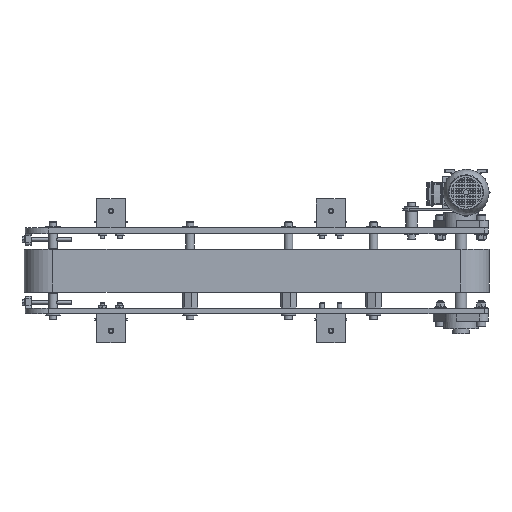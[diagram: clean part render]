
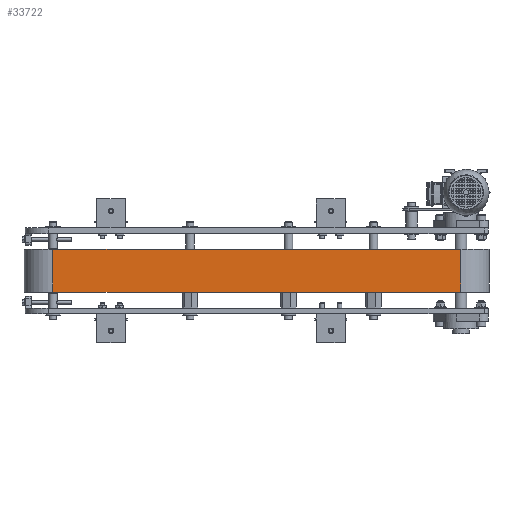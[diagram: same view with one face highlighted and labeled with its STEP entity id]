
A CAD part, front view. The second image highlights one B-rep face of the part: STEP entity #33722.
In plain terms, the highlighted planar face has unit normal (0, -1, 0).
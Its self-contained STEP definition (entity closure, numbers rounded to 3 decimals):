
#14665=LINE('',#116664,#20108);
#14680=LINE('',#116705,#20123);
#14684=LINE('',#116716,#20127);
#14685=LINE('',#116718,#20128);
#20108=VECTOR('',#88035,1.);
#20123=VECTOR('',#88078,1.);
#20127=VECTOR('',#88088,1.);
#20128=VECTOR('',#88091,1.);
#25072=FACE_OUTER_BOUND('',#39494,.T.);
#28047=PLANE('',#80428);
#33722=ADVANCED_FACE('NONE',(#25072),#28047,.F.);
#39494=EDGE_LOOP('',(#48235,#48236,#48237,#48238));
#48235=ORIENTED_EDGE('',*,*,#70764,.T.);
#48236=ORIENTED_EDGE('',*,*,#70765,.F.);
#48237=ORIENTED_EDGE('',*,*,#70758,.F.);
#48238=ORIENTED_EDGE('',*,*,#70737,.T.);
#63586=VERTEX_POINT('',#116659);
#63588=VERTEX_POINT('',#116663);
#63601=VERTEX_POINT('',#116706);
#63604=VERTEX_POINT('',#116715);
#70737=EDGE_CURVE('',#63586,#63588,#14665,.T.);
#70758=EDGE_CURVE('',#63586,#63601,#14680,.T.);
#70764=EDGE_CURVE('',#63588,#63604,#14684,.T.);
#70765=EDGE_CURVE('',#63601,#63604,#14685,.T.);
#80428=AXIS2_PLACEMENT_3D('',#116719,#88092,#88093);
#88035=DIRECTION('',(0.,0.,-1.));
#88078=DIRECTION('',(1.,0.,0.));
#88088=DIRECTION('',(1.,0.,0.));
#88091=DIRECTION('',(0.,0.,-1.));
#88092=DIRECTION('',(0.,1.,0.));
#88093=DIRECTION('',(1.,0.,0.));
#116659=CARTESIAN_POINT('',(0.,-49.5,73.75));
#116663=CARTESIAN_POINT('',(0.,-49.5,0.));
#116664=CARTESIAN_POINT('',(0.,-49.5,73.75));
#116705=CARTESIAN_POINT('',(0.,-49.5,73.75));
#116706=CARTESIAN_POINT('',(705.,-49.5,73.75));
#116715=CARTESIAN_POINT('',(705.,-49.5,0.));
#116716=CARTESIAN_POINT('',(0.,-49.5,0.));
#116718=CARTESIAN_POINT('',(705.,-49.5,73.75));
#116719=CARTESIAN_POINT('',(0.,-49.5,73.75));
